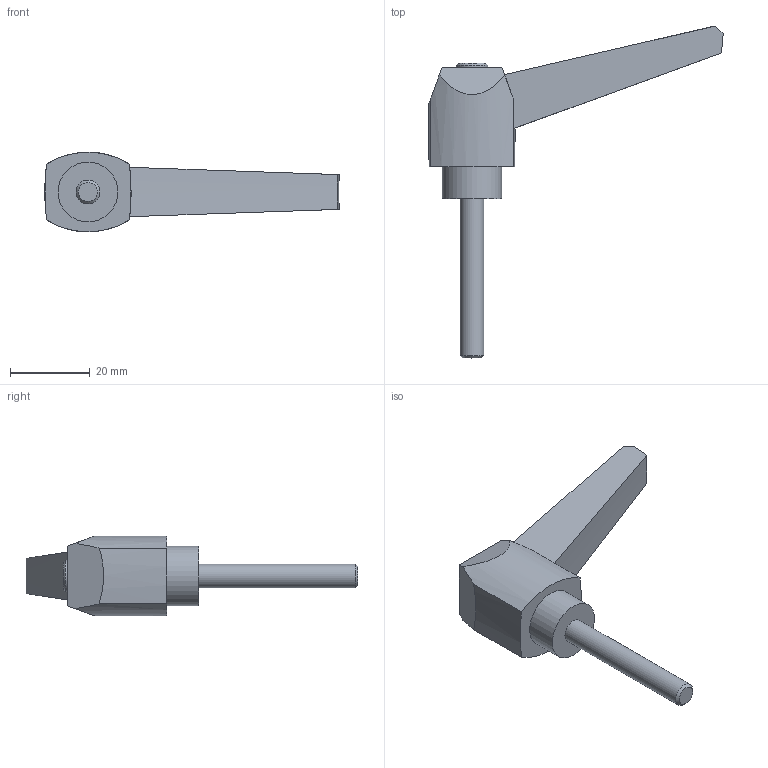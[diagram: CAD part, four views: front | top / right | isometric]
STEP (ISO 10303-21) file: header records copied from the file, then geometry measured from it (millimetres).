
FILE_DESCRIPTION( ( 'STEP AP203' ), '1' );
FILE_NAME( 'C:/Temp/Ganter_Step_05_03_2020/data/2_1/gn_500/gn_500_ms/Adjustable hand lever GN 500-63-M6-40-SW.stp', '2020-03-05T11:26:33', ( 'License CC BY-ND 4.0' ), ( 'CADENAS' ), ' ', 'PARTsolutions', ' ' );
FILE_SCHEMA( ( 'CONFIG_CONTROL_DESIGN' ) );
Length unit declared in the file: millimetre
Products named in the file (1): _Adjustable hand lever GN 500-63-M6-40-SW
Bounding box: 73.9 x 83.35 x 19.99 mm (x, y, z)
Volume: 17622 mm3; surface area: 5722.3 mm2
Topology: 1 solids, 1 shells, 24 faces, 56 edges, 37 vertices
Faces by surface type: plane 11, cylinder 7, cone 6
Full cylindrical faces by diameter (mm): 6 x1, 8 x1, 15 x1
Entity records: 708 total; most frequent: DIRECTION 122, CARTESIAN_POINT 117, ORIENTED_EDGE 100, EDGE_CURVE 50, AXIS2_PLACEMENT_3D 49, VERTEX_POINT 36, EDGE_LOOP 32, FACE_OUTER_BOUND 27
